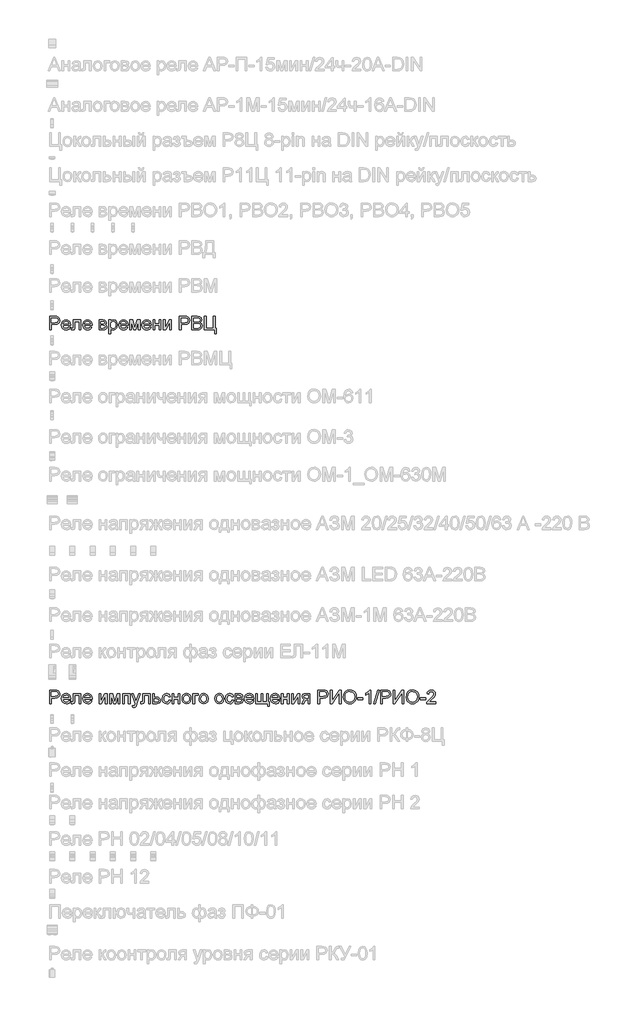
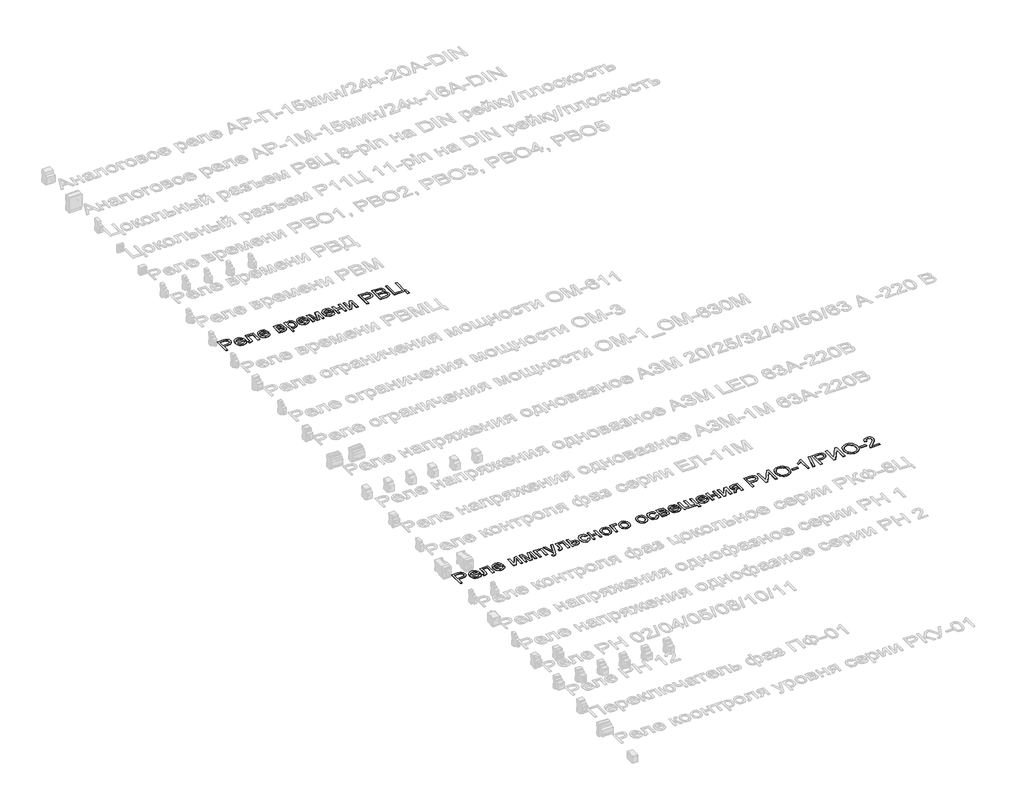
# One storey, part 15 of 34: 2 proxies.
"""IFC4 building model written with IfcOpenShell, lengths in millimetres."""

import ifcopenshell
import ifcopenshell.guid

model = None  # the IFC model being written
_history = None  # IfcOwnerHistory: only IFC2X3 demands one
_inside = {}  # id of a spatial element -> (the spatial element, [elements in it])
_under = {}  # id of a project, library or spatial element -> (it, [spatial elements below it])
_declared = {}  # id of a project -> (the project, [libraries it declares])
_typed = {}  # id of a type object -> (the type object, [elements of that type])
_made_of = {}  # id of a material, layer set ... -> (it, [elements and type objects made of it])


def new_model(schema):
    """Start an empty IFC model of exactly this schema.

    Asked for "IFC4X3", IfcOpenShell would pick the latest addendum, in which some entities
    have other attributes; the version numbers below select the first issue.
    IFC2X3 requires an IfcOwnerHistory on every rooted entity: one is made here for all.
    """
    global model, _history
    if schema == "IFC4X3":
        model = ifcopenshell.file(schema_version=(4, 3, 0, 0))
    else:
        model = ifcopenshell.file(schema=schema)
    _inside.clear()
    _under.clear()
    _declared.clear()
    _typed.clear()
    _made_of.clear()
    _history = None
    if model.schema == "IFC2X3":
        org = make("IfcOrganization", Name="unknown")
        user = make(
            "IfcPersonAndOrganization",
            ThePerson=make("IfcPerson", FamilyName="unknown"),
            TheOrganization=org,
        )
        app = make(
            "IfcApplication",
            ApplicationDeveloper=org,
            Version="unknown",
            ApplicationFullName="unknown",
            ApplicationIdentifier="unknown",
        )
        _history = make(
            "IfcOwnerHistory",
            OwningUser=user,
            OwningApplication=app,
            ChangeAction="ADDED",
            CreationDate=0,
        )
    return model


def make(cls, **values):
    """One entity of the class cls with the attributes given. An attribute that is None is left unset."""
    return model.create_entity(
        cls, **{name: value for name, value in values.items() if value is not None}
    )


def rooted(cls, **values):
    """An entity with a GlobalId (a new one), such as an element, a storey or a relation."""
    return make(cls, GlobalId=ifcopenshell.guid.new(), OwnerHistory=_history, **values)


def si_unit(unit_type, name, prefix=None):
    """IfcSIUnit, for example si_unit("LENGTHUNIT", "METRE", prefix="MILLI")."""
    return make("IfcSIUnit", UnitType=unit_type, Prefix=prefix, Name=name)


def assignment(units):
    """IfcUnitAssignment: the units of a project."""
    return None if units is None else make("IfcUnitAssignment", Units=units)


def point(xyz):
    """IfcCartesianPoint."""
    return None if xyz is None else make("IfcCartesianPoint", Coordinates=xyz)


def direction(xyz):
    """IfcDirection."""
    return None if xyz is None else make("IfcDirection", DirectionRatios=xyz)


def frame(location, z_axis=None, x_axis=None):
    """IfcAxis2Placement3D, a coordinate frame: its origin and axes. An axis left out is left unset."""
    return make(
        "IfcAxis2Placement3D",
        Location=point(location),
        Axis=direction(z_axis),
        RefDirection=direction(x_axis),
    )


def origin():
    """The frame at (0, 0, 0) with its axes left unset."""
    return frame((0.0, 0.0, 0.0))


def place(relative_to, where):
    """IfcLocalPlacement: puts the frame where relative to a parent placement (None: the world)."""
    return make(
        "IfcLocalPlacement", PlacementRelTo=relative_to, RelativePlacement=where
    )


def context(
    kind, dimensions, precision=None, world=None, true_north=None, identifier=None
):
    """IfcGeometricRepresentationContext, for example the 3D "Model" context."""
    return make(
        "IfcGeometricRepresentationContext",
        ContextIdentifier=identifier,
        ContextType=kind,
        CoordinateSpaceDimension=dimensions,
        Precision=precision,
        WorldCoordinateSystem=world,
        TrueNorth=true_north,
    )


def project(units=None, contexts=None):
    """IfcProject with its units and contexts."""
    return rooted(
        "IfcProject",
        Name="project",
        RepresentationContexts=contexts,
        UnitsInContext=assignment(units),
    )


def spatial(cls, under=None, at=None, **own):
    """A site, building, storey or space (cls), placed at a placement, below another one or the project."""
    s = rooted(cls, ObjectPlacement=at, **own)
    if under is not None:
        _under.setdefault(under.id(), (under, []))[1].append(s)
    return s


def polyline(points):
    """IfcPolyline through the points."""
    return make("IfcPolyline", Points=[point(p) for p in points])


def outline(outer, holes=None, kind="AREA"):
    """IfcArbitraryClosedProfileDef: a profile drawn as a closed curve; with holes, ...WithVoids."""
    if holes is None:
        return make("IfcArbitraryClosedProfileDef", ProfileType=kind, OuterCurve=outer)
    return make(
        "IfcArbitraryProfileDefWithVoids",
        ProfileType=kind,
        OuterCurve=outer,
        InnerCurves=holes,
    )


def extrude(swept, where, along, depth):
    """IfcExtrudedAreaSolid: the profile swept, set in the frame where, extruded along a direction by depth."""
    return make(
        "IfcExtrudedAreaSolid",
        SweptArea=swept,
        Position=where,
        ExtrudedDirection=direction(along),
        Depth=depth,
    )


def shape(context_of_items, identifier, shape_type, items):
    """IfcShapeRepresentation: the items that make up one representation, for example the "Body"."""
    return make(
        "IfcShapeRepresentation",
        ContextOfItems=context_of_items,
        RepresentationIdentifier=identifier,
        RepresentationType=shape_type,
        Items=items,
    )


def made_of(thing, what):
    """Note that an element or type object is made of a material, layer set ...; save() writes the relation."""
    if what is not None:
        _made_of.setdefault(what.id(), (what, []))[1].append(thing)
    return thing


def element(
    cls,
    number,
    at=None,
    inside=None,
    cuts=None,
    type_object=None,
    material=None,
    context=None,
    identifier="Body",
    shape_type=None,
    held_by="IfcProductDefinitionShape",
    body=None,
    shapes=None,
    **own,
):
    """One element of the class cls, such as IfcWall. Its Tag is "e" and its number.

    at: its placement. inside: the storey or other place that contains it. cuts: it is an
    opening in that element (IfcRelVoidsElement). A single representation is given by context,
    identifier, shape_type and body (its items); several are given by shapes. held_by: the class
    of the entity that holds the representations. save() writes the other relations.
    """
    e = rooted(cls, Tag="e%d" % number, ObjectPlacement=at, **own)
    if body is not None:
        shapes = [shape(context, identifier, shape_type, body)]
    if shapes is not None:
        e.Representation = make(held_by, Representations=shapes)
    if inside is not None:
        _inside.setdefault(inside.id(), (inside, []))[1].append(e)
    if cuts is not None:
        rooted(
            "IfcRelVoidsElement", RelatingBuildingElement=cuts, RelatedOpeningElement=e
        )
    if type_object is not None:
        _typed.setdefault(type_object.id(), (type_object, []))[1].append(e)
    return made_of(e, material)


def aggregate(whole, parts):
    """IfcRelAggregates: a whole, such as a stair, and the parts it consists of."""
    return rooted("IfcRelAggregates", RelatingObject=whole, RelatedObjects=parts)


def save(model, path):
    """Write the relations noted so far, then the file.

    IfcRelAggregates (storeys below a building ...), IfcRelContainedInSpatialStructure (elements
    in a storey), IfcRelDefinesByType, IfcRelAssociatesMaterial and IfcRelDeclares: one each for
    every whole, place, type object, material and project.
    """
    for whole, parts in _under.values():
        aggregate(whole, parts)
    for where, things in _inside.values():
        rooted(
            "IfcRelContainedInSpatialStructure",
            RelatedElements=things,
            RelatingStructure=where,
        )
    for kind, things in _typed.values():
        rooted("IfcRelDefinesByType", RelatedObjects=things, RelatingType=kind)
    for what, things in _made_of.values():
        rooted("IfcRelAssociatesMaterial", RelatedObjects=things, RelatingMaterial=what)
    for by, libraries in _declared.values():
        rooted("IfcRelDeclares", RelatingContext=by, RelatedDefinitions=libraries)
    model.write(path)


model = new_model("IFC4")

# Units and contexts
model_context = context("Model", 3, world=origin())
ifc_project = project(units=[si_unit("LENGTHUNIT", "METRE", prefix="MILLI")], contexts=[model_context])

# Site, building, storey
site = spatial("IfcSite", under=ifc_project)
building = spatial("IfcBuilding", under=site)
storey = spatial("IfcBuildingStorey", under=building, Name="Этаж 01", Elevation=0.0)

# Proxies
placement = place(None, origin())
element("IfcBuildingElementProxy", 1, Name="Надпись на модели 1", ObjectType="Надпись на модели 1", at=placement, inside=storey, context=model_context, shape_type="SweptSolid", body=[
    extrude(outline(polyline([(-19039.0125911, 13756.235284), (-19039.0125911, 13856.6915941), (-19001.7829332, 13856.6915941), (-18986.7733478, 13855.735101), (-18974.5719283, 13851.0384742), (-18966.6624654, 13841.3263895), (-18963.6703585, 13827.6289165), (-18965.6906438, 13815.7892476), (-18971.7514996, 13805.9238788), (-18983.0853308, 13799.2652147), (-19000.9245418, 13797.04566), (-19026.4555523, 13797.04566), (-19026.4555523, 13756.235284), (-19039.0125911, 13756.235284)]), holes=[polyline([(-19026.4555523, 13809.6026988), (-19000.1887779, 13809.6026988), (-18981.6965762, 13814.2134864), (-18977.594692, 13819.7623732), (-18976.2273972, 13827.1874581), (-18979.4524961, 13837.5862559), (-18987.9260447, 13843.2761641), (-19000.4830834, 13844.1345554), (-19026.4555523, 13844.1345554), (-19026.4555523, 13809.6026988)])]), frame((0.0, 0.0, 40.0), z_axis=(0.0, 0.0, 1.0), x_axis=(1.0, 0.0, 0.0)), (0.0, 0.0, 1.0), 2.0),
    extrude(outline(polyline([(-18896.3234279, 13778.2101018), (-18884.0116438, 13776.640472), (-18888.4476875, 13767.3637143), (-18895.5263502, 13760.4291387), (-18905.0882164, 13756.1065253), (-18916.9738705, 13754.6656541), (-18931.7075445, 13757.1519233), (-18943.0444413, 13764.6107308), (-18950.2733225, 13776.5576985), (-18952.6829495, 13792.5084487), (-18950.248797, 13808.9956935), (-18942.9463394, 13821.3258717), (-18931.7627268, 13829.0146054), (-18917.6851091, 13831.5775166), (-18904.0458841, 13829.0207367), (-18893.14738, 13821.3503971), (-18886.0012722, 13809.0447444), (-18883.6192363, 13792.5820251), (-18883.6928127, 13789.1975108), (-18940.1259108, 13789.1975108), (-18937.9523413, 13779.7981258), (-18932.9031609, 13772.8880756), (-18925.6160317, 13768.6390386), (-18916.7286159, 13767.2226929), (-18904.4168318, 13769.8469178), (-18896.3234279, 13778.2101018)]), holes=[polyline([(-18940.1259108, 13801.7545495), (-18896.1762751, 13801.7545495), (-18901.2039957, 13813.1343659), (-18908.5248474, 13817.5489499), (-18917.73416, 13819.0204778), (-18933.1974665, 13814.323851), (-18938.0627059, 13808.8332123), (-18940.1259108, 13801.7545495)])]), frame((0.0, 0.0, 40.0), z_axis=(0.0, 0.0, 1.0), x_axis=(1.0, 0.0, 0.0)), (0.0, 0.0, 1.0), 2.0),
    extrude(outline(polyline([(-18864.7836782, 13830.0078868), (-18808.2770037, 13830.0078868), (-18808.2770037, 13756.3088604), (-18820.8340425, 13756.3088604), (-18820.8340425, 13817.450848), (-18852.2266394, 13817.450848), (-18852.2266394, 13782.2568038), (-18853.072768, 13766.0209451), (-18857.7203439, 13759.1660772), (-18868.7077528, 13756.235284), (-18878.9103468, 13756.8729461), (-18878.9103468, 13768.7923228), (-18873.294015, 13768.7923228), (-18867.6163695, 13769.564875), (-18865.3477639, 13772.0174216), (-18864.7836782, 13782.9680423), (-18864.7836782, 13830.0078868)])), frame((0.0, 0.0, 40.0), z_axis=(0.0, 0.0, 1.0), x_axis=(1.0, 0.0, 0.0)), (0.0, 0.0, 1.0), 2.0),
    extrude(outline(polyline([(-18737.7908134, 13778.2101018), (-18725.4790293, 13776.640472), (-18729.915073, 13767.3637143), (-18736.9937358, 13760.4291387), (-18746.555602, 13756.1065253), (-18758.4412561, 13754.6656541), (-18773.17493, 13757.1519233), (-18784.5118268, 13764.6107308), (-18791.740708, 13776.5576985), (-18794.1503351, 13792.5084487), (-18791.7161826, 13808.9956935), (-18784.4137249, 13821.3258717), (-18773.2301123, 13829.0146054), (-18759.1524946, 13831.5775166), (-18745.5132696, 13829.0207367), (-18734.6147655, 13821.3503971), (-18727.4686578, 13809.0447444), (-18725.0866219, 13792.5820251), (-18725.1601983, 13789.1975108), (-18781.5932963, 13789.1975108), (-18779.4197269, 13779.7981258), (-18774.3705465, 13772.8880756), (-18767.0834173, 13768.6390386), (-18758.1960014, 13767.2226929), (-18745.8842173, 13769.8469178), (-18737.7908134, 13778.2101018)]), holes=[polyline([(-18781.5932963, 13801.7545495), (-18737.6436606, 13801.7545495), (-18742.6713812, 13813.1343659), (-18749.9922329, 13817.5489499), (-18759.2015455, 13819.0204778), (-18774.6648521, 13814.323851), (-18779.5300915, 13808.8332123), (-18781.5932963, 13801.7545495)])]), frame((0.0, 0.0, 40.0), z_axis=(0.0, 0.0, 1.0), x_axis=(1.0, 0.0, 0.0)), (0.0, 0.0, 1.0), 2.0),
    extrude(outline(polyline([(-18673.2888369, 13830.0078868), (-18645.6241109, 13830.0078868), (-18630.45511, 13828.3278923), (-18621.9202477, 13822.1720003), (-18618.3517923, 13811.4421087), (-18620.5100334, 13802.7233055), (-18627.0092819, 13796.5060997), (-18618.5725215, 13789.7002828), (-18615.2125326, 13777.8667453), (-18617.3401168, 13768.2956821), (-18622.3984943, 13761.5573102), (-18630.406059, 13757.5657905), (-18641.3812052, 13756.235284), (-18673.2888369, 13756.235284), (-18673.2888369, 13830.0078868)]), holes=[polyline([(-18660.7317982, 13801.7545495), (-18648.3219122, 13801.7545495), (-18638.08253, 13802.3922117), (-18633.1038603, 13804.9428602), (-18630.9088311, 13809.5536478), (-18634.7593293, 13815.7095399), (-18647.9295047, 13817.450848), (-18660.7317982, 13817.450848), (-18660.7317982, 13801.7545495)]), polyline([(-18660.7317982, 13768.7923228), (-18645.3298053, 13768.7923228), (-18631.6691206, 13771.0609284), (-18627.7695714, 13778.8968149), (-18629.9155497, 13784.9423424), (-18635.507356, 13788.4617468), (-18646.5560786, 13789.1975108), (-18660.7317982, 13789.1975108), (-18660.7317982, 13768.7923228)])]), frame((0.0, 0.0, 40.0), z_axis=(0.0, 0.0, 1.0), x_axis=(1.0, 0.0, 0.0)), (0.0, 0.0, 1.0), 2.0),
    extrude(outline(polyline([(-18599.5162342, 13727.9819468), (-18599.5162342, 13830.0078868), (-18586.9591954, 13830.0078868), (-18586.9591954, 13817.6961027), (-18578.2771803, 13828.1071631), (-18566.5540074, 13831.5775166), (-18550.6369797, 13826.7214743), (-18540.238182, 13813.036264), (-18536.7310403, 13793.6856711), (-18540.6919031, 13773.3417968), (-18552.1943469, 13759.4849083), (-18568.0745863, 13754.6656541), (-18579.0006816, 13757.890753), (-18586.9591954, 13766.0454705), (-18586.9591954, 13727.9819468), (-18599.5162342, 13727.9819468)]), holes=[polyline([(-18586.9591954, 13792.5329742), (-18585.6010977, 13781.2757851), (-18581.5268046, 13773.4031104), (-18575.5149997, 13768.7677973), (-18568.3443664, 13767.2226929), (-18561.0572373, 13768.8229796), (-18554.8921482, 13773.6238396), (-18550.6890964, 13781.7846886), (-18549.2880791, 13793.4649419), (-18550.6553738, 13804.6608173), (-18554.7572581, 13812.6438566), (-18560.759866, 13817.4263225), (-18567.8293317, 13819.0204778), (-18574.9263885, 13817.325155), (-18581.1589226, 13812.2391864), (-18585.5091272, 13803.9219876), (-18586.9591954, 13792.5329742)])]), frame((0.0, 0.0, 40.0), z_axis=(0.0, 0.0, 1.0), x_axis=(1.0, 0.0, 0.0)), (0.0, 0.0, 1.0), 2.0),
    extrude(outline(polyline([(-18470.9537396, 13778.2101018), (-18458.6419555, 13776.640472), (-18463.0779992, 13767.3637143), (-18470.1566619, 13760.4291387), (-18479.7185281, 13756.1065253), (-18491.6041823, 13754.6656541), (-18506.3378562, 13757.1519233), (-18517.674753, 13764.6107308), (-18524.9036342, 13776.5576985), (-18527.3132613, 13792.5084487), (-18524.8791087, 13808.9956935), (-18517.5766511, 13821.3258717), (-18506.3930385, 13829.0146054), (-18492.3154208, 13831.5775166), (-18478.6761958, 13829.0207367), (-18467.7776917, 13821.3503971), (-18460.6315839, 13809.0447444), (-18458.249548, 13792.5820251), (-18458.3231244, 13789.1975108), (-18514.7562225, 13789.1975108), (-18512.582653, 13779.7981258), (-18507.5334726, 13772.8880756), (-18500.2463435, 13768.6390386), (-18491.3589276, 13767.2226929), (-18479.0471435, 13769.8469178), (-18470.9537396, 13778.2101018)]), holes=[polyline([(-18514.7562225, 13801.7545495), (-18470.8065868, 13801.7545495), (-18475.8343074, 13813.1343659), (-18483.1551591, 13817.5489499), (-18492.3644717, 13819.0204778), (-18507.8277782, 13814.323851), (-18512.6930176, 13808.8332123), (-18514.7562225, 13801.7545495)])]), frame((0.0, 0.0, 40.0), z_axis=(0.0, 0.0, 1.0), x_axis=(1.0, 0.0, 0.0)), (0.0, 0.0, 1.0), 2.0),
    extrude(outline(polyline([(-18445.6925093, 13830.0078868), (-18424.0855734, 13830.0078868), (-18407.4327818, 13770.9505638), (-18389.4801404, 13830.0078868), (-18368.7806468, 13830.0078868), (-18368.7806468, 13756.235284), (-18381.3376856, 13756.235284), (-18381.3376856, 13815.6359635), (-18399.3884288, 13756.235284), (-18415.8695422, 13756.235284), (-18433.1354705, 13818.4809176), (-18433.1354705, 13756.235284), (-18445.6925093, 13756.235284), (-18445.6925093, 13830.0078868)])), frame((0.0, 0.0, 40.0), z_axis=(0.0, 0.0, 1.0), x_axis=(1.0, 0.0, 0.0)), (0.0, 0.0, 1.0), 2.0),
    extrude(outline(polyline([(-18298.2944565, 13778.2101018), (-18285.9826724, 13776.640472), (-18290.4187161, 13767.3637143), (-18297.4973789, 13760.4291387), (-18307.0592451, 13756.1065253), (-18318.9448992, 13754.6656541), (-18333.6785731, 13757.1519233), (-18345.0154699, 13764.6107308), (-18352.2443511, 13776.5576985), (-18354.6539782, 13792.5084487), (-18352.2198256, 13808.9956935), (-18344.917368, 13821.3258717), (-18333.7337554, 13829.0146054), (-18319.6561377, 13831.5775166), (-18306.0169127, 13829.0207367), (-18295.1184086, 13821.3503971), (-18287.9723009, 13809.0447444), (-18285.590265, 13792.5820251), (-18285.6638414, 13789.1975108), (-18342.0969394, 13789.1975108), (-18339.92337, 13779.7981258), (-18334.8741896, 13772.8880756), (-18327.5870604, 13768.6390386), (-18318.6996445, 13767.2226929), (-18306.3878604, 13769.8469178), (-18298.2944565, 13778.2101018)]), holes=[polyline([(-18342.0969394, 13801.7545495), (-18298.1473037, 13801.7545495), (-18303.1750243, 13813.1343659), (-18310.495876, 13817.5489499), (-18319.7051886, 13819.0204778), (-18335.1684952, 13814.323851), (-18340.0337346, 13808.8332123), (-18342.0969394, 13801.7545495)])]), frame((0.0, 0.0, 40.0), z_axis=(0.0, 0.0, 1.0), x_axis=(1.0, 0.0, 0.0)), (0.0, 0.0, 1.0), 2.0),
    extrude(outline(polyline([(-18273.0332262, 13830.0078868), (-18260.4761874, 13830.0078868), (-18260.4761874, 13801.7545495), (-18227.5139607, 13801.7545495), (-18227.5139607, 13830.0078868), (-18214.9569219, 13830.0078868), (-18214.9569219, 13756.235284), (-18227.5139607, 13756.235284), (-18227.5139607, 13789.1975108), (-18260.4761874, 13789.1975108), (-18260.4761874, 13756.235284), (-18273.0332262, 13756.235284), (-18273.0332262, 13830.0078868)])), frame((0.0, 0.0, 40.0), z_axis=(0.0, 0.0, 1.0), x_axis=(1.0, 0.0, 0.0)), (0.0, 0.0, 1.0), 2.0),
    extrude(outline(polyline([(-18196.1213637, 13830.0078868), (-18183.564325, 13830.0078868), (-18183.564325, 13773.746467), (-18152.7112883, 13830.0078868), (-18136.4754296, 13830.0078868), (-18136.4754296, 13756.235284), (-18149.0324683, 13756.235284), (-18149.0324683, 13812.1533473), (-18179.6893013, 13756.235284), (-18196.1213637, 13756.235284), (-18196.1213637, 13830.0078868)])), frame((0.0, 0.0, 40.0), z_axis=(0.0, 0.0, 1.0), x_axis=(1.0, 0.0, 0.0)), (0.0, 0.0, 1.0), 2.0),
    extrude(outline(polyline([(-18076.8294954, 13756.235284), (-18076.8294954, 13856.6915941), (-18039.5998375, 13856.6915941), (-18024.5902521, 13855.735101), (-18012.3888326, 13851.0384742), (-18004.4793697, 13841.3263895), (-18001.4872628, 13827.6289165), (-18003.5075481, 13815.7892476), (-18009.568404, 13805.9238788), (-18020.9022351, 13799.2652147), (-18038.7414462, 13797.04566), (-18064.2724567, 13797.04566), (-18064.2724567, 13756.235284), (-18076.8294954, 13756.235284)]), holes=[polyline([(-18064.2724567, 13809.6026988), (-18038.0056822, 13809.6026988), (-18019.5134806, 13814.2134864), (-18015.4115963, 13819.7623732), (-18014.0443016, 13827.1874581), (-18017.2694004, 13837.5862559), (-18025.742949, 13843.2761641), (-18038.2999878, 13844.1345554), (-18064.2724567, 13844.1345554), (-18064.2724567, 13809.6026988)])]), frame((0.0, 0.0, 40.0), z_axis=(0.0, 0.0, 1.0), x_axis=(1.0, 0.0, 0.0)), (0.0, 0.0, 1.0), 2.0),
    extrude(outline(polyline([(-17984.2213345, 13756.235284), (-17984.2213345, 13856.6915941), (-17945.8880306, 13856.6915941), (-17927.1137861, 13853.7362754), (-17916.0282753, 13844.6495902), (-17912.0183616, 13831.7982458), (-17915.3906132, 13820.0628102), (-17925.5809445, 13811.1723286), (-17913.2078467, 13801.8036005), (-17908.8791019, 13786.1808784), (-17911.8344206, 13772.6796092), (-17919.1552723, 13763.0656264), (-17930.0813675, 13757.9643294), (-17946.1823362, 13756.235284), (-17984.2213345, 13756.235284)]), holes=[polyline([(-17971.6642957, 13815.8812181), (-17948.7329847, 13815.8812181), (-17935.3420801, 13816.9603387), (-17927.2854644, 13821.6079145), (-17924.5754004, 13829.7871576), (-17927.1015234, 13837.9786633), (-17934.336536, 13842.8224429), (-17950.4742928, 13844.1345554), (-17971.6642957, 13844.1345554), (-17971.6642957, 13815.8812181)]), polyline([(-17971.6642957, 13768.7923228), (-17945.9125561, 13768.7923228), (-17936.5928789, 13769.2828321), (-17928.7079414, 13772.0174216), (-17923.4840171, 13777.5969652), (-17921.4361407, 13786.0582511), (-17923.8396364, 13795.8193867), (-17931.6264719, 13801.6441849), (-17947.1388294, 13803.3241794), (-17971.6642957, 13803.3241794), (-17971.6642957, 13768.7923228)])]), frame((0.0, 0.0, 40.0), z_axis=(0.0, 0.0, 1.0), x_axis=(1.0, 0.0, 0.0)), (0.0, 0.0, 1.0), 2.0),
    extrude(outline(polyline([(-17891.6131736, 13856.6915941), (-17879.0561348, 13856.6915941), (-17879.0561348, 13768.7923228), (-17825.6887201, 13768.7923228), (-17825.6887201, 13856.6915941), (-17813.1316813, 13856.6915941), (-17813.1316813, 13768.7923228), (-17803.7139022, 13768.7923228), (-17803.7139022, 13727.9819468), (-17816.270941, 13727.9819468), (-17816.270941, 13756.235284), (-17891.6131736, 13756.235284), (-17891.6131736, 13856.6915941)])), frame((0.0, 0.0, 40.0), z_axis=(0.0, 0.0, 1.0), x_axis=(1.0, 0.0, 0.0)), (0.0, 0.0, 1.0), 2.0),
])
element("IfcBuildingElementProxy", 2, Name="Надпись на модели 1", ObjectType="Надпись на модели 1", at=placement, inside=storey, context=model_context, shape_type="SweptSolid", body=[
    extrude(outline(polyline([(-19039.0125911, 10986.235284), (-19039.0125911, 11086.6915941), (-19001.7829332, 11086.6915941), (-18986.7733478, 11085.735101), (-18974.5719283, 11081.0384742), (-18966.6624654, 11071.3263895), (-18963.6703585, 11057.6289165), (-18965.6906438, 11045.7892476), (-18971.7514996, 11035.9238788), (-18983.0853308, 11029.2652147), (-19000.9245418, 11027.04566), (-19026.4555523, 11027.04566), (-19026.4555523, 10986.235284), (-19039.0125911, 10986.235284)]), holes=[polyline([(-19026.4555523, 11039.6026988), (-19000.1887779, 11039.6026988), (-18981.6965762, 11044.2134864), (-18977.594692, 11049.7623732), (-18976.2273972, 11057.1874581), (-18979.4524961, 11067.5862559), (-18987.9260447, 11073.2761641), (-19000.4830834, 11074.1345554), (-19026.4555523, 11074.1345554), (-19026.4555523, 11039.6026988)])]), frame((0.0, 0.0, 40.0), z_axis=(0.0, 0.0, 1.0), x_axis=(1.0, 0.0, 0.0)), (0.0, 0.0, 1.0), 2.0),
    extrude(outline(polyline([(-18896.3234279, 11008.2101018), (-18884.0116438, 11006.640472), (-18888.4476875, 10997.3637143), (-18895.5263502, 10990.4291387), (-18905.0882164, 10986.1065253), (-18916.9738705, 10984.6656541), (-18931.7075445, 10987.1519233), (-18943.0444413, 10994.6107308), (-18950.2733225, 11006.5576985), (-18952.6829495, 11022.5084487), (-18950.248797, 11038.9956935), (-18942.9463394, 11051.3258717), (-18931.7627268, 11059.0146054), (-18917.6851091, 11061.5775166), (-18904.0458841, 11059.0207367), (-18893.14738, 11051.3503971), (-18886.0012722, 11039.0447444), (-18883.6192363, 11022.5820251), (-18883.6928127, 11019.1975108), (-18940.1259108, 11019.1975108), (-18937.9523413, 11009.7981258), (-18932.9031609, 11002.8880756), (-18925.6160317, 10998.6390386), (-18916.7286159, 10997.2226929), (-18904.4168318, 10999.8469178), (-18896.3234279, 11008.2101018)]), holes=[polyline([(-18940.1259108, 11031.7545495), (-18896.1762751, 11031.7545495), (-18901.2039957, 11043.1343659), (-18908.5248474, 11047.5489499), (-18917.73416, 11049.0204778), (-18933.1974665, 11044.323851), (-18938.0627059, 11038.8332123), (-18940.1259108, 11031.7545495)])]), frame((0.0, 0.0, 40.0), z_axis=(0.0, 0.0, 1.0), x_axis=(1.0, 0.0, 0.0)), (0.0, 0.0, 1.0), 2.0),
    extrude(outline(polyline([(-18864.7836782, 11060.0078868), (-18808.2770037, 11060.0078868), (-18808.2770037, 10986.3088604), (-18820.8340425, 10986.3088604), (-18820.8340425, 11047.450848), (-18852.2266394, 11047.450848), (-18852.2266394, 11012.2568038), (-18853.072768, 10996.0209451), (-18857.7203439, 10989.1660772), (-18868.7077528, 10986.235284), (-18878.9103468, 10986.8729461), (-18878.9103468, 10998.7923228), (-18873.294015, 10998.7923228), (-18867.6163695, 10999.564875), (-18865.3477639, 11002.0174216), (-18864.7836782, 11012.9680423), (-18864.7836782, 11060.0078868)])), frame((0.0, 0.0, 40.0), z_axis=(0.0, 0.0, 1.0), x_axis=(1.0, 0.0, 0.0)), (0.0, 0.0, 1.0), 2.0),
    extrude(outline(polyline([(-18737.7908134, 11008.2101018), (-18725.4790293, 11006.640472), (-18729.915073, 10997.3637143), (-18736.9937358, 10990.4291387), (-18746.555602, 10986.1065253), (-18758.4412561, 10984.6656541), (-18773.17493, 10987.1519233), (-18784.5118268, 10994.6107308), (-18791.740708, 11006.5576985), (-18794.1503351, 11022.5084487), (-18791.7161826, 11038.9956935), (-18784.4137249, 11051.3258717), (-18773.2301123, 11059.0146054), (-18759.1524946, 11061.5775166), (-18745.5132696, 11059.0207367), (-18734.6147655, 11051.3503971), (-18727.4686578, 11039.0447444), (-18725.0866219, 11022.5820251), (-18725.1601983, 11019.1975108), (-18781.5932963, 11019.1975108), (-18779.4197269, 11009.7981258), (-18774.3705465, 11002.8880756), (-18767.0834173, 10998.6390386), (-18758.1960014, 10997.2226929), (-18745.8842173, 10999.8469178), (-18737.7908134, 11008.2101018)]), holes=[polyline([(-18781.5932963, 11031.7545495), (-18737.6436606, 11031.7545495), (-18742.6713812, 11043.1343659), (-18749.9922329, 11047.5489499), (-18759.2015455, 11049.0204778), (-18774.6648521, 11044.323851), (-18779.5300915, 11038.8332123), (-18781.5932963, 11031.7545495)])]), frame((0.0, 0.0, 40.0), z_axis=(0.0, 0.0, 1.0), x_axis=(1.0, 0.0, 0.0)), (0.0, 0.0, 1.0), 2.0),
    extrude(outline(polyline([(-18673.2888369, 11060.0078868), (-18660.7317982, 11060.0078868), (-18660.7317982, 11003.746467), (-18629.8787615, 11060.0078868), (-18613.6429028, 11060.0078868), (-18613.6429028, 10986.235284), (-18626.1999416, 10986.235284), (-18626.1999416, 11042.1533473), (-18656.8567745, 10986.235284), (-18673.2888369, 10986.235284), (-18673.2888369, 11060.0078868)])), frame((0.0, 0.0, 40.0), z_axis=(0.0, 0.0, 1.0), x_axis=(1.0, 0.0, 0.0)), (0.0, 0.0, 1.0), 2.0),
    extrude(outline(polyline([(-18594.8073446, 11060.0078868), (-18573.2004088, 11060.0078868), (-18556.5476171, 11000.9505638), (-18538.5949758, 11060.0078868), (-18517.8954822, 11060.0078868), (-18517.8954822, 10986.235284), (-18530.4525209, 10986.235284), (-18530.4525209, 11045.6359635), (-18548.5032642, 10986.235284), (-18564.9843776, 10986.235284), (-18582.2503059, 11048.4809176), (-18582.2503059, 10986.235284), (-18594.8073446, 10986.235284), (-18594.8073446, 11060.0078868)])), frame((0.0, 0.0, 40.0), z_axis=(0.0, 0.0, 1.0), x_axis=(1.0, 0.0, 0.0)), (0.0, 0.0, 1.0), 2.0),
    extrude(outline(polyline([(-18499.059924, 11060.0078868), (-18442.5532496, 11060.0078868), (-18442.5532496, 10986.235284), (-18455.1102883, 10986.235284), (-18455.1102883, 11047.450848), (-18486.5028853, 11047.450848), (-18486.5028853, 10986.235284), (-18499.059924, 10986.235284), (-18499.059924, 11060.0078868)])), frame((0.0, 0.0, 40.0), z_axis=(0.0, 0.0, 1.0), x_axis=(1.0, 0.0, 0.0)), (0.0, 0.0, 1.0), 2.0),
    extrude(outline(polyline([(-18423.7176914, 10957.9819468), (-18425.2873213, 10970.0730017), (-18418.9107, 10968.9693557), (-18412.9510117, 10970.3550445), (-18409.2967172, 10974.2178055), (-18405.8631519, 10983.4639063), (-18404.8821333, 10986.5050641), (-18431.5658406, 11060.0078868), (-18418.3220888, 11060.0078868), (-18404.1708947, 11019.050358), (-18399.241276, 11002.6673464), (-18394.3116573, 11017.1373716), (-18379.7680557, 11060.0078868), (-18366.6224058, 11060.0078868), (-18392.300569, 10984.4694504), (-18398.9714959, 10968.0864389), (-18406.2555594, 10959.2327455), (-18416.0412204, 10956.4123169), (-18423.7176914, 10957.9819468)])), frame((0.0, 0.0, 40.0), z_axis=(0.0, 0.0, 1.0), x_axis=(1.0, 0.0, 0.0)), (0.0, 0.0, 1.0), 2.0),
    extrude(outline(polyline([(-18349.9450886, 11060.0078868), (-18293.4384142, 11060.0078868), (-18293.4384142, 10986.3088604), (-18305.995453, 10986.3088604), (-18305.995453, 11047.450848), (-18337.3880499, 11047.450848), (-18337.3880499, 11012.2568038), (-18338.2341785, 10996.0209451), (-18342.8817543, 10989.1660772), (-18353.8691633, 10986.235284), (-18364.0717573, 10986.8729461), (-18364.0717573, 10998.7923228), (-18358.4554255, 10998.7923228), (-18352.77778, 10999.564875), (-18350.5091744, 11002.0174216), (-18349.9450886, 11012.9680423), (-18349.9450886, 11060.0078868)])), frame((0.0, 0.0, 40.0), z_axis=(0.0, 0.0, 1.0), x_axis=(1.0, 0.0, 0.0)), (0.0, 0.0, 1.0), 2.0),
    extrude(outline(polyline([(-18274.602856, 11060.0078868), (-18262.0458173, 11060.0078868), (-18262.0458173, 11033.3241794), (-18247.5757921, 11033.3241794), (-18235.0310161, 11031.7514838), (-18225.7481271, 11027.0333973), (-18220.0091679, 11019.5500643), (-18218.0961816, 11009.6816298), (-18219.7240594, 11000.6961121), (-18224.6076929, 10993.1146773), (-18233.0720445, 10987.9551323), (-18245.4420765, 10986.235284), (-18274.602856, 10986.235284), (-18274.602856, 11060.0078868)]), holes=[polyline([(-18262.0458173, 10998.7923228), (-18250.3226444, 10998.7923228), (-18235.1781689, 11001.4288104), (-18230.6532203, 11009.6571044), (-18234.0009465, 11017.3826263), (-18248.8265909, 11020.7671406), (-18262.0458173, 11020.7671406), (-18262.0458173, 10998.7923228)])]), frame((0.0, 0.0, 40.0), z_axis=(0.0, 0.0, 1.0), x_axis=(1.0, 0.0, 0.0)), (0.0, 0.0, 1.0), 2.0),
    extrude(outline(polyline([(-18155.3109877, 11012.9189914), (-18142.753949, 11011.3493615), (-18146.2549593, 11000.1810773), (-18152.8339156, 10991.7412512), (-18161.87155, 10986.4345534), (-18172.7485943, 10984.6656541), (-18186.1057764, 10987.1335292), (-18196.5505594, 10994.5371544), (-18203.291997, 11006.5515672), (-18205.5391428, 11022.8518052), (-18201.7009073, 11043.7107144), (-18190.0022599, 11057.1138817), (-18172.9202726, 11061.5775166), (-18162.3099427, 11060.044675), (-18153.827197, 11055.44615), (-18147.7418157, 11048.0271964), (-18144.3235788, 11038.0330689), (-18156.8806176, 11036.4634391), (-18162.7054158, 11045.8689554), (-18172.8221707, 11049.0204778), (-18180.9370344, 11047.4692421), (-18187.378035, 11042.8155349), (-18191.5810868, 11034.8079701), (-18192.982104, 11023.1951618), (-18191.6117436, 11011.4260036), (-18187.5006623, 11003.3908477), (-18181.1761577, 10998.7647316), (-18173.1655272, 10997.2226929), (-18161.3319897, 11001.0731911), (-18155.3109877, 11012.9189914)])), frame((0.0, 0.0, 40.0), z_axis=(0.0, 0.0, 1.0), x_axis=(1.0, 0.0, 0.0)), (0.0, 0.0, 1.0), 2.0),
    extrude(outline(polyline([(-18131.76654, 11060.0078868), (-18119.2095013, 11060.0078868), (-18119.2095013, 11031.7545495), (-18086.2472745, 11031.7545495), (-18086.2472745, 11060.0078868), (-18073.6902357, 11060.0078868), (-18073.6902357, 10986.235284), (-18086.2472745, 10986.235284), (-18086.2472745, 11019.1975108), (-18119.2095013, 11019.1975108), (-18119.2095013, 10986.235284), (-18131.76654, 10986.235284), (-18131.76654, 11060.0078868)])), frame((0.0, 0.0, 40.0), z_axis=(0.0, 0.0, 1.0), x_axis=(1.0, 0.0, 0.0)), (0.0, 0.0, 1.0), 2.0),
    extrude(outline(polyline([(-18057.9939373, 11023.1215854), (-18055.2777419, 11040.9086798), (-18047.1291557, 11053.4105363), (-18037.0614517, 11059.5357715), (-18025.007185, 11061.5775166), (-18011.8155498, 11059.0912475), (-18001.2787963, 11051.63244), (-17994.3718119, 11039.7897054), (-17992.0694837, 11024.151655), (-17996.1407112, 11001.8089551), (-18007.9987741, 10989.1660772), (-18025.007185, 10984.6656541), (-18038.3582358, 10987.1427262), (-18048.8827265, 10994.5739426), (-18055.7161346, 11006.6649975), (-18057.9939373, 11023.1215854)]), holes=[polyline([(-18045.4368985, 11023.1461108), (-18043.9837646, 11011.7816229), (-18039.624363, 11003.6851533), (-18033.0638007, 10998.838308), (-18025.007185, 10997.2226929), (-18016.9873575, 10998.8475051), (-18010.439058, 11003.7219415), (-18006.0796564, 11011.92571), (-18004.6265225, 11023.5385183), (-18006.0888534, 11034.5719125), (-18010.4758462, 11042.5580175), (-18017.0333428, 11047.4048627), (-18025.007185, 11049.0204778), (-18033.0638007, 11047.4109941), (-18039.624363, 11042.5825429), (-18043.9837646, 11034.5044674), (-18045.4368985, 11023.1461108)])]), frame((0.0, 0.0, 40.0), z_axis=(0.0, 0.0, 1.0), x_axis=(1.0, 0.0, 0.0)), (0.0, 0.0, 1.0), 2.0),
    extrude(outline(polyline([(-17977.9428151, 11060.0078868), (-17937.1324391, 11060.0078868), (-17937.1324391, 11047.450848), (-17965.3857764, 11047.450848), (-17965.3857764, 10986.235284), (-17977.9428151, 10986.235284), (-17977.9428151, 11060.0078868)])), frame((0.0, 0.0, 40.0), z_axis=(0.0, 0.0, 1.0), x_axis=(1.0, 0.0, 0.0)), (0.0, 0.0, 1.0), 2.0),
    extrude(outline(polyline([(-17930.8539197, 11023.1215854), (-17928.1377243, 11040.9086798), (-17919.9891381, 11053.4105363), (-17909.9214342, 11059.5357715), (-17897.8671675, 11061.5775166), (-17884.6755323, 11059.0912475), (-17874.1387788, 11051.63244), (-17867.2317944, 11039.7897054), (-17864.9294662, 11024.151655), (-17869.0006936, 11001.8089551), (-17880.8587566, 10989.1660772), (-17897.8671675, 10984.6656541), (-17911.2182182, 10987.1427262), (-17921.742709, 10994.5739426), (-17928.5761171, 11006.6649975), (-17930.8539197, 11023.1215854)]), holes=[polyline([(-17918.296881, 11023.1461108), (-17916.8437471, 11011.7816229), (-17912.4843454, 11003.6851533), (-17905.9237832, 10998.838308), (-17897.8671675, 10997.2226929), (-17889.84734, 10998.8475051), (-17883.2990405, 11003.7219415), (-17878.9396389, 11011.92571), (-17877.486505, 11023.5385183), (-17878.9488359, 11034.5719125), (-17883.3358287, 11042.5580175), (-17889.8933253, 11047.4048627), (-17897.8671675, 11049.0204778), (-17905.9237832, 11047.4109941), (-17912.4843454, 11042.5825429), (-17916.8437471, 11034.5044674), (-17918.296881, 11023.1461108)])]), frame((0.0, 0.0, 40.0), z_axis=(0.0, 0.0, 1.0), x_axis=(1.0, 0.0, 0.0)), (0.0, 0.0, 1.0), 2.0),
    extrude(outline(polyline([(-17814.7013111, 11023.1215854), (-17811.9851157, 11040.9086798), (-17803.8365295, 11053.4105363), (-17793.7688256, 11059.5357715), (-17781.7145589, 11061.5775166), (-17768.5229237, 11059.0912475), (-17757.9861702, 11051.63244), (-17751.0791857, 11039.7897054), (-17748.7768576, 11024.151655), (-17752.848085, 11001.8089551), (-17764.706148, 10989.1660772), (-17781.7145589, 10984.6656541), (-17795.0656096, 10987.1427262), (-17805.5901004, 10994.5739426), (-17812.4235084, 11006.6649975), (-17814.7013111, 11023.1215854)]), holes=[polyline([(-17802.1442724, 11023.1461108), (-17800.6911385, 11011.7816229), (-17796.3317368, 11003.6851533), (-17789.7711746, 10998.838308), (-17781.7145589, 10997.2226929), (-17773.6947314, 10998.8475051), (-17767.1464319, 11003.7219415), (-17762.7870302, 11011.92571), (-17761.3338964, 11023.5385183), (-17762.7962273, 11034.5719125), (-17767.1832201, 11042.5580175), (-17773.7407166, 11047.4048627), (-17781.7145589, 11049.0204778), (-17789.7711746, 11047.4109941), (-17796.3317368, 11042.5825429), (-17800.6911385, 11034.5044674), (-17802.1442724, 11023.1461108)])]), frame((0.0, 0.0, 40.0), z_axis=(0.0, 0.0, 1.0), x_axis=(1.0, 0.0, 0.0)), (0.0, 0.0, 1.0), 2.0),
    extrude(outline(polyline([(-17687.5612936, 11012.9189914), (-17675.0042548, 11011.3493615), (-17678.5052651, 11000.1810773), (-17685.0842215, 10991.7412512), (-17694.1218558, 10986.4345534), (-17704.9989002, 10984.6656541), (-17718.3560823, 10987.1335292), (-17728.8008653, 10994.5371544), (-17735.5423028, 11006.5515672), (-17737.7894487, 11022.8518052), (-17733.9512132, 11043.7107144), (-17722.2525657, 11057.1138817), (-17705.1705784, 11061.5775166), (-17694.5602486, 11060.044675), (-17686.0775029, 11055.44615), (-17679.9921215, 11048.0271964), (-17676.5738847, 11038.0330689), (-17689.1309234, 11036.4634391), (-17694.9557217, 11045.8689554), (-17705.0724766, 11049.0204778), (-17713.1873402, 11047.4692421), (-17719.6283408, 11042.8155349), (-17723.8313926, 11034.8079701), (-17725.2324099, 11023.1951618), (-17723.8620495, 11011.4260036), (-17719.7509682, 11003.3908477), (-17713.4264635, 10998.7647316), (-17705.4158331, 10997.2226929), (-17693.5822956, 11001.0731911), (-17687.5612936, 11012.9189914)])), frame((0.0, 0.0, 40.0), z_axis=(0.0, 0.0, 1.0), x_axis=(1.0, 0.0, 0.0)), (0.0, 0.0, 1.0), 2.0),
    extrude(outline(polyline([(-17664.0168459, 11060.0078868), (-17636.3521199, 11060.0078868), (-17621.1831189, 11058.3278923), (-17612.6482566, 11052.1720003), (-17609.0798013, 11041.4421087), (-17611.2380423, 11032.7233055), (-17617.7372909, 11026.5060997), (-17609.3005305, 11019.7002828), (-17605.9405416, 11007.8667453), (-17608.0681258, 10998.2956821), (-17613.1265032, 10991.5573102), (-17621.134068, 10987.5657905), (-17632.1092142, 10986.235284), (-17664.0168459, 10986.235284), (-17664.0168459, 11060.0078868)]), holes=[polyline([(-17651.4598071, 11031.7545495), (-17639.0499212, 11031.7545495), (-17628.810539, 11032.3922117), (-17623.8318693, 11034.9428602), (-17621.6368401, 11039.5536478), (-17625.4873383, 11045.7095399), (-17638.6575137, 11047.450848), (-17651.4598071, 11047.450848), (-17651.4598071, 11031.7545495)]), polyline([(-17651.4598071, 10998.7923228), (-17636.0578143, 10998.7923228), (-17622.3971295, 11001.0609284), (-17618.4975804, 11008.8968149), (-17620.6435587, 11014.9423424), (-17626.235365, 11018.4617468), (-17637.2840876, 11019.1975108), (-17651.4598071, 11019.1975108), (-17651.4598071, 10998.7923228)])]), frame((0.0, 0.0, 40.0), z_axis=(0.0, 0.0, 1.0), x_axis=(1.0, 0.0, 0.0)), (0.0, 0.0, 1.0), 2.0),
    extrude(outline(polyline([(-17538.593611, 11008.2101018), (-17526.2818269, 11006.640472), (-17530.7178706, 10997.3637143), (-17537.7965334, 10990.4291387), (-17547.3583996, 10986.1065253), (-17559.2440537, 10984.6656541), (-17573.9777276, 10987.1519233), (-17585.3146244, 10994.6107308), (-17592.5435056, 11006.5576985), (-17594.9531327, 11022.5084487), (-17592.5189801, 11038.9956935), (-17585.2165225, 11051.3258717), (-17574.0329099, 11059.0146054), (-17559.9552922, 11061.5775166), (-17546.3160672, 11059.0207367), (-17535.4175631, 11051.3503971), (-17528.2714554, 11039.0447444), (-17525.8894194, 11022.5820251), (-17525.9629958, 11019.1975108), (-17582.3960939, 11019.1975108), (-17580.2225245, 11009.7981258), (-17575.1733441, 11002.8880756), (-17567.8862149, 10998.6390386), (-17558.998799, 10997.2226929), (-17546.6870149, 10999.8469178), (-17538.593611, 11008.2101018)]), holes=[polyline([(-17582.3960939, 11031.7545495), (-17538.4464582, 11031.7545495), (-17543.4741788, 11043.1343659), (-17550.7950305, 11047.5489499), (-17560.0043431, 11049.0204778), (-17575.4676497, 11044.323851), (-17580.3328891, 11038.8332123), (-17582.3960939, 11031.7545495)])]), frame((0.0, 0.0, 40.0), z_axis=(0.0, 0.0, 1.0), x_axis=(1.0, 0.0, 0.0)), (0.0, 0.0, 1.0), 2.0),
    extrude(outline(polyline([(-17513.3323807, 11060.0078868), (-17500.7753419, 11060.0078868), (-17500.7753419, 10998.7923228), (-17472.5220047, 10998.7923228), (-17472.5220047, 11060.0078868), (-17459.9649659, 11060.0078868), (-17459.9649659, 10998.7923228), (-17431.7116287, 10998.7923228), (-17431.7116287, 11060.0078868), (-17419.1545899, 11060.0078868), (-17419.1545899, 10998.7923228), (-17411.3064407, 10998.7923228), (-17411.3064407, 10965.830096), (-17423.8634795, 10965.830096), (-17423.8634795, 10986.235284), (-17513.3323807, 10986.235284), (-17513.3323807, 11060.0078868)])), frame((0.0, 0.0, 40.0), z_axis=(0.0, 0.0, 1.0), x_axis=(1.0, 0.0, 0.0)), (0.0, 0.0, 1.0), 2.0),
    extrude(outline(polyline([(-17347.0987698, 11008.2101018), (-17334.7869857, 11006.640472), (-17339.2230294, 10997.3637143), (-17346.3016921, 10990.4291387), (-17355.8635583, 10986.1065253), (-17367.7492125, 10984.6656541), (-17382.4828864, 10987.1519233), (-17393.8197832, 10994.6107308), (-17401.0486644, 11006.5576985), (-17403.4582915, 11022.5084487), (-17401.0241389, 11038.9956935), (-17393.7216813, 11051.3258717), (-17382.5380687, 11059.0146054), (-17368.460451, 11061.5775166), (-17354.821226, 11059.0207367), (-17343.9227219, 11051.3503971), (-17336.7766141, 11039.0447444), (-17334.3945782, 11022.5820251), (-17334.4681546, 11019.1975108), (-17390.9012527, 11019.1975108), (-17388.7276832, 11009.7981258), (-17383.6785028, 11002.8880756), (-17376.3913737, 10998.6390386), (-17367.5039578, 10997.2226929), (-17355.1921737, 10999.8469178), (-17347.0987698, 11008.2101018)]), holes=[polyline([(-17390.9012527, 11031.7545495), (-17346.951617, 11031.7545495), (-17351.9793376, 11043.1343659), (-17359.3001893, 11047.5489499), (-17368.5095019, 11049.0204778), (-17383.9728084, 11044.323851), (-17388.8380478, 11038.8332123), (-17390.9012527, 11031.7545495)])]), frame((0.0, 0.0, 40.0), z_axis=(0.0, 0.0, 1.0), x_axis=(1.0, 0.0, 0.0)), (0.0, 0.0, 1.0), 2.0),
    extrude(outline(polyline([(-17321.8375395, 11060.0078868), (-17309.2805007, 11060.0078868), (-17309.2805007, 11031.7545495), (-17276.3182739, 11031.7545495), (-17276.3182739, 11060.0078868), (-17263.7612352, 11060.0078868), (-17263.7612352, 10986.235284), (-17276.3182739, 10986.235284), (-17276.3182739, 11019.1975108), (-17309.2805007, 11019.1975108), (-17309.2805007, 10986.235284), (-17321.8375395, 10986.235284), (-17321.8375395, 11060.0078868)])), frame((0.0, 0.0, 40.0), z_axis=(0.0, 0.0, 1.0), x_axis=(1.0, 0.0, 0.0)), (0.0, 0.0, 1.0), 2.0),
    extrude(outline(polyline([(-17244.925677, 11060.0078868), (-17232.3686382, 11060.0078868), (-17232.3686382, 11003.746467), (-17201.5156016, 11060.0078868), (-17185.2797428, 11060.0078868), (-17185.2797428, 10986.235284), (-17197.8367816, 10986.235284), (-17197.8367816, 11042.1533473), (-17228.4936145, 10986.235284), (-17244.925677, 10986.235284), (-17244.925677, 11060.0078868)])), frame((0.0, 0.0, 40.0), z_axis=(0.0, 0.0, 1.0), x_axis=(1.0, 0.0, 0.0)), (0.0, 0.0, 1.0), 2.0),
    extrude(outline(polyline([(-17109.9375102, 11060.0078868), (-17109.9375102, 10986.235284), (-17122.494549, 10986.235284), (-17122.494549, 11014.4886212), (-17129.3371541, 11014.4886212), (-17138.6568313, 11012.8944659), (-17147.4124228, 11002.1768371), (-17157.4188131, 10986.235284), (-17171.9378892, 10986.235284), (-17159.3317995, 11006.3952173), (-17148.6386961, 11016.843066), (-17157.2226093, 11019.4734223), (-17163.2558741, 11024.470486), (-17168.0138145, 11038.6952565), (-17166.3890024, 11047.2914325), (-17161.514566, 11054.0972494), (-17153.5621835, 11058.5302274), (-17142.7035333, 11060.0078868), (-17109.9375102, 11060.0078868)]), holes=[polyline([(-17122.494549, 11047.450848), (-17139.0492388, 11047.450848), (-17152.4524061, 11044.5445802), (-17155.4567758, 11037.7387633), (-17151.0299291, 11029.6330967), (-17135.3458934, 11027.04566), (-17122.494549, 11027.04566), (-17122.494549, 11047.450848)])]), frame((0.0, 0.0, 40.0), z_axis=(0.0, 0.0, 1.0), x_axis=(1.0, 0.0, 0.0)), (0.0, 0.0, 1.0), 2.0),
    extrude(outline(polyline([(-17050.2915761, 10986.235284), (-17050.2915761, 11086.6915941), (-17013.0619182, 11086.6915941), (-16998.0523328, 11085.735101), (-16985.8509133, 11081.0384742), (-16977.9414504, 11071.3263895), (-16974.9493435, 11057.6289165), (-16976.9696288, 11045.7892476), (-16983.0304846, 11035.9238788), (-16994.3643158, 11029.2652147), (-17012.2035269, 11027.04566), (-17037.7345373, 11027.04566), (-17037.7345373, 10986.235284), (-17050.2915761, 10986.235284)]), holes=[polyline([(-17037.7345373, 11039.6026988), (-17011.4677629, 11039.6026988), (-16992.9755612, 11044.2134864), (-16988.873677, 11049.7623732), (-16987.5063822, 11057.1874581), (-16990.7314811, 11067.5862559), (-16999.2050297, 11073.2761641), (-17011.7620685, 11074.1345554), (-17037.7345373, 11074.1345554), (-17037.7345373, 11039.6026988)])]), frame((0.0, 0.0, 40.0), z_axis=(0.0, 0.0, 1.0), x_axis=(1.0, 0.0, 0.0)), (0.0, 0.0, 1.0), 2.0),
    extrude(outline(polyline([(-16957.6834152, 11086.6915941), (-16945.1263764, 11086.6915941), (-16945.1263764, 11007.1309813), (-16892.5437766, 11086.6915941), (-16879.2019229, 11086.6915941), (-16879.2019229, 10986.235284), (-16891.7589616, 10986.235284), (-16891.7589616, 11065.5751676), (-16944.2189341, 10986.235284), (-16957.6834152, 10986.235284), (-16957.6834152, 11086.6915941)])), frame((0.0, 0.0, 40.0), z_axis=(0.0, 0.0, 1.0), x_axis=(1.0, 0.0, 0.0)), (0.0, 0.0, 1.0), 2.0),
    extrude(outline(polyline([(-16861.9359946, 11035.1390639), (-16858.5882684, 11057.353005), (-16848.5450899, 11074.1590808), (-16833.2105421, 11084.7356882), (-16813.9887078, 11088.261224), (-16800.8124011, 11086.605755), (-16788.9972576, 11081.6393481), (-16779.1870711, 11073.7114911), (-16772.0256349, 11063.1716719), (-16767.6478392, 11050.528794), (-16766.1885739, 11036.2917608), (-16767.7244813, 11021.8646552), (-16772.3322033, 11009.0439677), (-16779.7572882, 10998.4857544), (-16789.7452844, 10990.8460717), (-16801.4592602, 10986.2107585), (-16814.0622842, 10984.6656541), (-16827.4409261, 10986.3732397), (-16839.3235146, 10991.4959965), (-16849.1091757, 10999.5710063), (-16856.1970354, 11010.1353509), (-16861.9359946, 11035.1390639)]), holes=[polyline([(-16849.3789558, 11035.0164366), (-16846.8681612, 11019.301744), (-16839.3357773, 11007.327185), (-16828.0142089, 10999.7488159), (-16814.1358606, 10997.2226929), (-16800.0551773, 10999.7733414), (-16788.7152148, 11007.4252869), (-16781.2380132, 11019.7677279), (-16778.7456127, 11036.3898627), (-16783.0130439, 11057.1138817), (-16795.4842435, 11070.8358802), (-16813.9151315, 11075.7041852), (-16827.422532, 11073.3589375), (-16838.9065817, 11066.3231943), (-16846.7608623, 11053.8060095), (-16849.3789558, 11035.0164366)])]), frame((0.0, 0.0, 40.0), z_axis=(0.0, 0.0, 1.0), x_axis=(1.0, 0.0, 0.0)), (0.0, 0.0, 1.0), 2.0),
    extrude(outline(polyline([(-16756.7707949, 11016.0582511), (-16756.7707949, 11028.6152898), (-16717.5300487, 11028.6152898), (-16717.5300487, 11016.0582511), (-16756.7707949, 11016.0582511)])), frame((0.0, 0.0, 40.0), z_axis=(0.0, 0.0, 1.0), x_axis=(1.0, 0.0, 0.0)), (0.0, 0.0, 1.0), 2.0),
    extrude(outline(polyline([(-16659.4537444, 10986.235284), (-16672.0107832, 10986.235284), (-16672.0107832, 11064.5205726), (-16683.9056344, 11056.0470239), (-16697.1248607, 11049.7071909), (-16697.1248607, 11061.5775166), (-16678.7184982, 11073.325215), (-16667.5471483, 11086.6915941), (-16659.4537444, 11086.6915941), (-16659.4537444, 10986.235284)])), frame((0.0, 0.0, 40.0), z_axis=(0.0, 0.0, 1.0), x_axis=(1.0, 0.0, 0.0)), (0.0, 0.0, 1.0), 2.0),
    extrude(outline(polyline([(-16635.9092967, 10986.235284), (-16607.6559595, 11086.6915941), (-16596.325194, 11086.6915941), (-16624.5785313, 10986.235284), (-16635.9092967, 10986.235284)])), frame((0.0, 0.0, 40.0), z_axis=(0.0, 0.0, 1.0), x_axis=(1.0, 0.0, 0.0)), (0.0, 0.0, 1.0), 2.0),
    extrude(outline(polyline([(-16585.6811416, 10986.235284), (-16585.6811416, 11086.6915941), (-16548.4514837, 11086.6915941), (-16533.4418983, 11085.735101), (-16521.2404788, 11081.0384742), (-16513.3310159, 11071.3263895), (-16510.338909, 11057.6289165), (-16512.3591943, 11045.7892476), (-16518.4200502, 11035.9238788), (-16529.7538813, 11029.2652147), (-16547.5930924, 11027.04566), (-16573.1241029, 11027.04566), (-16573.1241029, 10986.235284), (-16585.6811416, 10986.235284)]), holes=[polyline([(-16573.1241029, 11039.6026988), (-16546.8573284, 11039.6026988), (-16528.3651268, 11044.2134864), (-16524.2632425, 11049.7623732), (-16522.8959478, 11057.1874581), (-16526.1210466, 11067.5862559), (-16534.5945952, 11073.2761641), (-16547.151634, 11074.1345554), (-16573.1241029, 11074.1345554), (-16573.1241029, 11039.6026988)])]), frame((0.0, 0.0, 40.0), z_axis=(0.0, 0.0, 1.0), x_axis=(1.0, 0.0, 0.0)), (0.0, 0.0, 1.0), 2.0),
    extrude(outline(polyline([(-16493.0729807, 11086.6915941), (-16480.515942, 11086.6915941), (-16480.515942, 11007.1309813), (-16427.9333421, 11086.6915941), (-16414.5914884, 11086.6915941), (-16414.5914884, 10986.235284), (-16427.1485272, 10986.235284), (-16427.1485272, 11065.5751676), (-16479.6084997, 10986.235284), (-16493.0729807, 10986.235284), (-16493.0729807, 11086.6915941)])), frame((0.0, 0.0, 40.0), z_axis=(0.0, 0.0, 1.0), x_axis=(1.0, 0.0, 0.0)), (0.0, 0.0, 1.0), 2.0),
    extrude(outline(polyline([(-16397.3255601, 11035.1390639), (-16393.977834, 11057.353005), (-16383.9346555, 11074.1590808), (-16368.6001077, 11084.7356882), (-16349.3782734, 11088.261224), (-16336.2019666, 11086.605755), (-16324.3868232, 11081.6393481), (-16314.5766367, 11073.7114911), (-16307.4152005, 11063.1716719), (-16303.0374047, 11050.528794), (-16301.5781395, 11036.2917608), (-16303.1140468, 11021.8646552), (-16307.7217688, 11009.0439677), (-16315.1468538, 10998.4857544), (-16325.1348499, 10990.8460717), (-16336.8488258, 10986.2107585), (-16349.4518498, 10984.6656541), (-16362.8304917, 10986.3732397), (-16374.7130801, 10991.4959965), (-16384.4987412, 10999.5710063), (-16391.586601, 11010.1353509), (-16397.3255601, 11035.1390639)]), holes=[polyline([(-16384.7685213, 11035.0164366), (-16382.2577267, 11019.301744), (-16374.7253429, 11007.327185), (-16363.4037745, 10999.7488159), (-16349.5254262, 10997.2226929), (-16335.4447428, 10999.7733414), (-16324.1047803, 11007.4252869), (-16316.6275788, 11019.7677279), (-16314.1351783, 11036.3898627), (-16318.4026094, 11057.1138817), (-16330.873809, 11070.8358802), (-16349.304697, 11075.7041852), (-16362.8120976, 11073.3589375), (-16374.2961472, 11066.3231943), (-16382.1504278, 11053.8060095), (-16384.7685213, 11035.0164366)])]), frame((0.0, 0.0, 40.0), z_axis=(0.0, 0.0, 1.0), x_axis=(1.0, 0.0, 0.0)), (0.0, 0.0, 1.0), 2.0),
    extrude(outline(polyline([(-16292.1603604, 11016.0582511), (-16292.1603604, 11028.6152898), (-16252.9196143, 11028.6152898), (-16252.9196143, 11016.0582511), (-16292.1603604, 11016.0582511)])), frame((0.0, 0.0, 40.0), z_axis=(0.0, 0.0, 1.0), x_axis=(1.0, 0.0, 0.0)), (0.0, 0.0, 1.0), 2.0),
    extrude(outline(polyline([(-16177.5773817, 10998.7923228), (-16177.5773817, 10986.235284), (-16243.5018352, 10986.235284), (-16242.1529345, 10994.8927736), (-16234.5255145, 11008.2223646), (-16218.8046906, 11022.7782288), (-16197.1241783, 11043.6984516), (-16191.7040503, 11057.9232221), (-16196.81761, 11069.4379286), (-16210.1717264, 11074.1345554), (-16224.0899286, 11069.5482932), (-16229.3751666, 11056.8686271), (-16241.9322053, 11058.4382569), (-16238.8879818, 11070.5844941), (-16232.3059598, 11079.4565816), (-16222.5294958, 11084.882841), (-16209.9019463, 11086.6915941), (-16197.1824263, 11084.6805059), (-16187.4243564, 11078.6472412), (-16181.2163477, 11069.6341323), (-16179.1470115, 11058.6835116), (-16181.3788289, 11046.7763977), (-16188.7977825, 11034.4646136), (-16206.7872121, 11017.2599989), (-16221.2327118, 11005.1812067), (-16226.8980945, 10998.7923228), (-16177.5773817, 10998.7923228)])), frame((0.0, 0.0, 40.0), z_axis=(0.0, 0.0, 1.0), x_axis=(1.0, 0.0, 0.0)), (0.0, 0.0, 1.0), 2.0),
])

save(model, "model.ifc")
